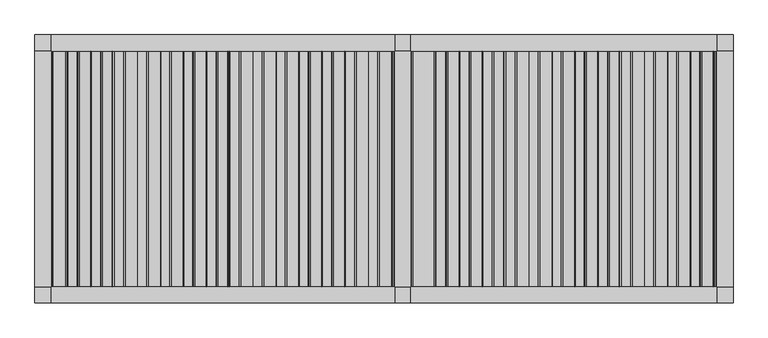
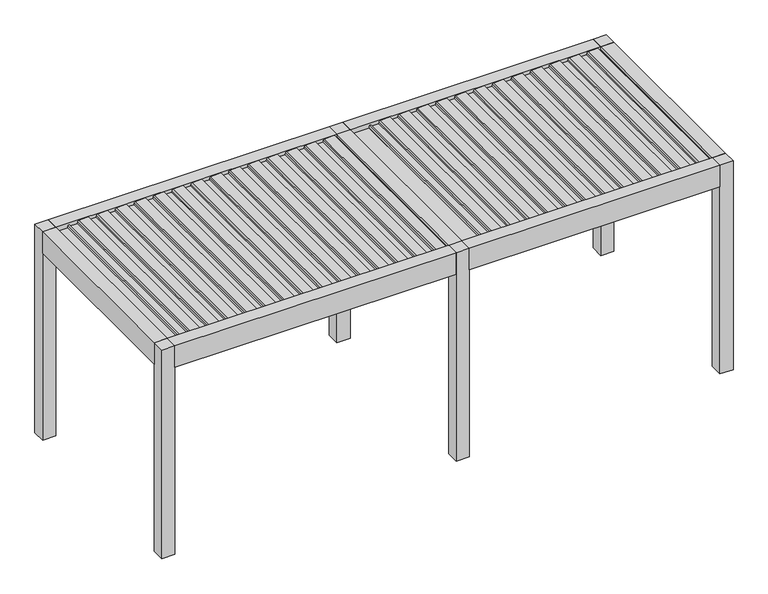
"""IFC4 building model written with IfcOpenShell, lengths in millimetres: proxy geometry, Renson_Camargue_Freestanding_Patio covers : Renson_Camargue_Freestanding_Patio covers."""

from ifc_helpers import new_model, si_unit, point, frame, frame_2d, origin, origin_with_axes, place, context, project, spatial, polyline, circle_curve, trimmed, segment, composite_curve, outline, extrude, source, transform, mapped, element, save


def generic_models_5eb306d7(model_context):
    return source(origin(), model_context, "Body", "SweptSolid", [
        extrude(outline(composite_curve([segment(polyline([(2458.35, 4323.7289238), (2486.01198, 4326.1490335), (2487.3970364, 4354.984284), (2506.8911096, 4351.5469529), (2501.6075693, 4241.549838)]), True, "CONTINUOUS"), segment(trimmed(circle_curve(frame_2d((2486.6248435, 4242.26951)), 15.0), [point((2501.6075693, 4241.549838))], [point((2489.2295662, 4227.4973937))], False, "CARTESIAN"), True, "CONTINUOUS"), segment(polyline([(2489.2295662, 4227.4973937), (2470.0, 4224.1067023), (2470.0, 4136.3709263), (2487.0788237, 4133.3594689), (2486.3450182, 4118.0824984), (2458.35, 4115.6332517), (2458.35, 4323.7289238)]), True, "CONTINUOUS")], self_intersect=False)), frame((0.0, -1100.0, 0.0), z_axis=(0.0, 1.0, 0.0), x_axis=(0.0, 0.0, 1.0)), (0.0, 0.0, 1.0), 2200.0),
        extrude(outline(composite_curve([segment(polyline([(2458.35, 4108.7132078), (2486.01198, 4111.1333174), (2487.3970364, 4139.9685679), (2506.8911096, 4136.5312368), (2501.6075693, 4026.534122)]), True, "CONTINUOUS"), segment(trimmed(circle_curve(frame_2d((2486.6248435, 4027.2537939)), 15.0), [point((2501.6075693, 4026.534122))], [point((2489.2295662, 4012.4816776))], False, "CARTESIAN"), True, "CONTINUOUS"), segment(polyline([(2489.2295662, 4012.4816776), (2470.0, 4009.0909863), (2470.0, 3921.3552102), (2487.0788237, 3918.3437528), (2486.3450182, 3903.0667824), (2458.35, 3900.6175356), (2458.35, 4108.7132078)]), True, "CONTINUOUS")], self_intersect=False)), frame((0.0, -1100.0, 0.0), z_axis=(0.0, 1.0, 0.0), x_axis=(0.0, 0.0, 1.0)), (0.0, 0.0, 1.0), 2200.0),
        extrude(outline(composite_curve([segment(polyline([(2458.35, 3893.6974917), (2486.01198, 3896.1176014), (2487.3970364, 3924.9528519), (2506.8911096, 3921.5155208), (2501.6075693, 3811.5184059)]), True, "CONTINUOUS"), segment(trimmed(circle_curve(frame_2d((2486.6248435, 3812.2380779)), 15.0), [point((2501.6075693, 3811.5184059))], [point((2489.2295662, 3797.4659616))], False, "CARTESIAN"), True, "CONTINUOUS"), segment(polyline([(2489.2295662, 3797.4659616), (2470.0, 3794.0752702), (2470.0, 3706.3394942), (2487.0788237, 3703.3280368), (2486.3450182, 3688.0510663), (2458.35, 3685.6018196), (2458.35, 3893.6974917)]), True, "CONTINUOUS")], self_intersect=False)), frame((0.0, -1100.0, 0.0), z_axis=(0.0, 1.0, 0.0), x_axis=(0.0, 0.0, 1.0)), (0.0, 0.0, 1.0), 2200.0),
        extrude(outline(composite_curve([segment(polyline([(2458.35, 3678.6817757), (2486.01198, 3681.1018854), (2487.3970364, 3709.9371358), (2506.8911096, 3706.4998047), (2501.6075693, 3596.5026899)]), True, "CONTINUOUS"), segment(trimmed(circle_curve(frame_2d((2486.6248435, 3597.2223618)), 15.0), [point((2501.6075693, 3596.5026899))], [point((2489.2295662, 3582.4502455))], False, "CARTESIAN"), True, "CONTINUOUS"), segment(polyline([(2489.2295662, 3582.4502455), (2470.0, 3579.0595542), (2470.0, 3491.3237782), (2487.0788237, 3488.3123207), (2486.3450182, 3473.0353503), (2458.35, 3470.5861035), (2458.35, 3678.6817757)]), True, "CONTINUOUS")], self_intersect=False)), frame((0.0, -1100.0, 0.0), z_axis=(0.0, 1.0, 0.0), x_axis=(0.0, 0.0, 1.0)), (0.0, 0.0, 1.0), 2200.0),
        extrude(outline(composite_curve([segment(polyline([(2458.35, 3463.6660597), (2486.01198, 3466.0861693), (2487.3970364, 3494.9214198), (2506.8911096, 3491.4840887), (2501.6075693, 3381.4869738)]), True, "CONTINUOUS"), segment(trimmed(circle_curve(frame_2d((2486.6248435, 3382.2066458)), 15.0), [point((2501.6075693, 3381.4869738))], [point((2489.2295662, 3367.4345295))], False, "CARTESIAN"), True, "CONTINUOUS"), segment(polyline([(2489.2295662, 3367.4345295), (2470.0, 3364.0438381), (2470.0, 3276.3080621), (2487.0788237, 3273.2966047), (2486.3450182, 3258.0196342), (2458.35, 3255.5703875), (2458.35, 3463.6660597)]), True, "CONTINUOUS")], self_intersect=False)), frame((0.0, -1100.0, 0.0), z_axis=(0.0, 1.0, 0.0), x_axis=(0.0, 0.0, 1.0)), (0.0, 0.0, 1.0), 2200.0),
        extrude(outline(composite_curve([segment(polyline([(2458.35, 3248.6503436), (2486.01198, 3251.0704533), (2487.3970364, 3279.9057037), (2506.8911096, 3276.4683726), (2501.6075693, 3166.4712578)]), True, "CONTINUOUS"), segment(trimmed(circle_curve(frame_2d((2486.6248435, 3167.1909297)), 15.0), [point((2501.6075693, 3166.4712578))], [point((2489.2295662, 3152.4188134))], False, "CARTESIAN"), True, "CONTINUOUS"), segment(polyline([(2489.2295662, 3152.4188134), (2470.0, 3149.0281221), (2470.0, 3061.2923461), (2487.0788237, 3058.2808886), (2486.3450182, 3043.0039182), (2458.35, 3040.5546714), (2458.35, 3248.6503436)]), True, "CONTINUOUS")], self_intersect=False)), frame((0.0, -1100.0, 0.0), z_axis=(0.0, 1.0, 0.0), x_axis=(0.0, 0.0, 1.0)), (0.0, 0.0, 1.0), 2200.0),
        extrude(outline(composite_curve([segment(polyline([(2458.35, 3033.6346276), (2486.01198, 3036.0547372), (2487.3970364, 3064.8899877), (2506.8911096, 3061.4526566), (2501.6075693, 2951.4555418)]), True, "CONTINUOUS"), segment(trimmed(circle_curve(frame_2d((2486.6248435, 2952.1752137)), 15.0), [point((2501.6075693, 2951.4555418))], [point((2489.2295662, 2937.4030974))], False, "CARTESIAN"), True, "CONTINUOUS"), segment(polyline([(2489.2295662, 2937.4030974), (2470.0, 2934.012406), (2470.0, 2846.27663), (2487.0788237, 2843.2651726), (2486.3450182, 2827.9882021), (2458.35, 2825.5389554), (2458.35, 3033.6346276)]), True, "CONTINUOUS")], self_intersect=False)), frame((0.0, -1100.0, 0.0), z_axis=(0.0, 1.0, 0.0), x_axis=(0.0, 0.0, 1.0)), (0.0, 0.0, 1.0), 2200.0),
        extrude(outline(composite_curve([segment(polyline([(2458.35, 2818.6189115), (2486.01198, 2821.0390212), (2487.3970364, 2849.8742716), (2506.8911096, 2846.4369406), (2501.6075693, 2736.4398257)]), True, "CONTINUOUS"), segment(trimmed(circle_curve(frame_2d((2486.6248435, 2737.1594976)), 15.0), [point((2501.6075693, 2736.4398257))], [point((2489.2295662, 2722.3873813))], False, "CARTESIAN"), True, "CONTINUOUS"), segment(polyline([(2489.2295662, 2722.3873813), (2470.0, 2718.99669), (2470.0, 2631.260914), (2487.0788237, 2628.2494566), (2486.3450182, 2612.9724861), (2458.35, 2610.5232394), (2458.35, 2818.6189115)]), True, "CONTINUOUS")], self_intersect=False)), frame((0.0, -1100.0, 0.0), z_axis=(0.0, 1.0, 0.0), x_axis=(0.0, 0.0, 1.0)), (0.0, 0.0, 1.0), 2200.0),
        extrude(outline(composite_curve([segment(polyline([(2458.35, 2603.6031955), (2486.01198, 2606.0233051), (2487.3970364, 2634.8585556), (2506.8911096, 2631.4212245), (2501.6075693, 2521.4241097)]), True, "CONTINUOUS"), segment(trimmed(circle_curve(frame_2d((2486.6248435, 2522.1437816)), 15.0), [point((2501.6075693, 2521.4241097))], [point((2489.2295662, 2507.3716653))], False, "CARTESIAN"), True, "CONTINUOUS"), segment(polyline([(2489.2295662, 2507.3716653), (2470.0, 2503.980974), (2470.0, 2416.2451979), (2487.0788237, 2413.2337405), (2486.3450182, 2397.95677), (2458.35, 2395.5075233), (2458.35, 2603.6031955)]), True, "CONTINUOUS")], self_intersect=False)), frame((0.0, -1100.0, 0.0), z_axis=(0.0, 1.0, 0.0), x_axis=(0.0, 0.0, 1.0)), (0.0, 0.0, 1.0), 2200.0),
        extrude(outline(composite_curve([segment(polyline([(2458.35, 2388.5874794), (2486.01198, 2391.0075891), (2487.3970364, 2419.8428395), (2506.8911096, 2416.4055085), (2501.6075693, 2306.4083936)]), True, "CONTINUOUS"), segment(trimmed(circle_curve(frame_2d((2486.6248435, 2307.1280655)), 15.0), [point((2501.6075693, 2306.4083936))], [point((2489.2295662, 2292.3559492))], False, "CARTESIAN"), True, "CONTINUOUS"), segment(polyline([(2489.2295662, 2292.3559492), (2470.0, 2288.9652579), (2470.0, 2201.2294819), (2487.0788237, 2198.2180245), (2486.3450182, 2182.941054), (2458.35, 2180.4918073), (2458.35, 2388.5874794)]), True, "CONTINUOUS")], self_intersect=False)), frame((0.0, -1100.0, 0.0), z_axis=(0.0, 1.0, 0.0), x_axis=(0.0, 0.0, 1.0)), (0.0, 0.0, 1.0), 2200.0),
        extrude(outline(composite_curve([segment(polyline([(2458.35, 4538.7446399), (2486.01198, 4541.1647495), (2487.3970364, 4570.0), (2506.8911096, 4566.5626689), (2501.6075693, 4456.5655541)]), True, "CONTINUOUS"), segment(trimmed(circle_curve(frame_2d((2486.6248435, 4457.285226)), 15.0), [point((2501.6075693, 4456.5655541))], [point((2489.2295662, 4442.5131097))], False, "CARTESIAN"), True, "CONTINUOUS"), segment(polyline([(2489.2295662, 4442.5131097), (2470.0, 4439.1224184), (2470.0, 4351.3866423), (2487.0788237, 4348.3751849), (2486.3450182, 4333.0982144), (2458.35, 4330.6489677), (2458.35, 4538.7446399)]), True, "CONTINUOUS")], self_intersect=False)), frame((0.0, -1100.0, 0.0), z_axis=(0.0, 1.0, 0.0), x_axis=(0.0, 0.0, 1.0)), (0.0, 0.0, 1.0), 2200.0),
        extrude(outline(composite_curve([segment(polyline([(2458.35, 2173.5717634), (2486.01198, 2175.991873), (2487.3970364, 2204.8271235), (2506.8911096, 2201.3897924), (2501.6075693, 2091.3926776)]), True, "CONTINUOUS"), segment(trimmed(circle_curve(frame_2d((2486.6248435, 2092.1123495)), 15.0), [point((2501.6075693, 2091.3926776))], [point((2489.2295662, 2077.3402332))], False, "CARTESIAN"), True, "CONTINUOUS"), segment(polyline([(2489.2295662, 2077.3402332), (2470.0, 2073.9495419), (2470.0, 1986.2137658), (2487.0788237, 1983.2023084), (2486.3450182, 1967.9253379), (2458.35, 1965.4760912), (2458.35, 2173.5717634)]), True, "CONTINUOUS")], self_intersect=False)), frame((0.0, -1100.0, 0.0), z_axis=(0.0, 1.0, 0.0), x_axis=(0.0, 0.0, 1.0)), (0.0, 0.0, 1.0), 2200.0),
        extrude(outline(composite_curve([segment(polyline([(2458.35, 1323.7313417), (2486.01198, 1326.1514513), (2487.3970364, 1354.9867018), (2506.8911096, 1351.5493707), (2501.6075693, 1241.5522559)]), True, "CONTINUOUS"), segment(trimmed(circle_curve(frame_2d((2486.6248435, 1242.2719278)), 15.0), [point((2501.6075693, 1241.5522559))], [point((2489.2295662, 1227.4998115))], False, "CARTESIAN"), True, "CONTINUOUS"), segment(polyline([(2489.2295662, 1227.4998115), (2470.0, 1224.1091202), (2470.0, 1136.3733441), (2487.0788237, 1133.3618867), (2486.3450182, 1118.0849163), (2458.35, 1115.6356695), (2458.35, 1323.7313417)]), True, "CONTINUOUS")], self_intersect=False)), frame((0.0, -1100.0, 0.0), z_axis=(0.0, 1.0, 0.0), x_axis=(0.0, 0.0, 1.0)), (0.0, 0.0, 1.0), 2200.0),
        extrude(outline(composite_curve([segment(polyline([(2458.35, 1108.7180435), (2486.01198, 1111.1381532), (2487.3970364, 1139.9734036), (2506.8911096, 1136.5360725), (2501.6075693, 1026.5389577)]), True, "CONTINUOUS"), segment(trimmed(circle_curve(frame_2d((2486.6248435, 1027.2586296)), 15.0), [point((2501.6075693, 1026.5389577))], [point((2489.2295662, 1012.4865133))], False, "CARTESIAN"), True, "CONTINUOUS"), segment(polyline([(2489.2295662, 1012.4865133), (2470.0, 1009.095822), (2470.0, 921.360046), (2487.0788237, 918.3485885), (2486.3450182, 903.0716181), (2458.35, 900.6223713), (2458.35, 1108.7180435)]), True, "CONTINUOUS")], self_intersect=False)), frame((0.0, -1100.0, 0.0), z_axis=(0.0, 1.0, 0.0), x_axis=(0.0, 0.0, 1.0)), (0.0, 0.0, 1.0), 2200.0),
        extrude(outline(composite_curve([segment(polyline([(2458.35, 893.7047453), (2486.01198, 896.124855), (2487.3970364, 924.9601054), (2506.8911096, 921.5227743), (2501.6075693, 811.5256595)]), True, "CONTINUOUS"), segment(trimmed(circle_curve(frame_2d((2486.6248435, 812.2453314)), 15.0), [point((2501.6075693, 811.5256595))], [point((2489.2295662, 797.4732151))], False, "CARTESIAN"), True, "CONTINUOUS"), segment(polyline([(2489.2295662, 797.4732151), (2470.0, 794.0825238), (2470.0, 706.3467478), (2487.0788237, 703.3352903), (2486.3450182, 688.0583199), (2458.35, 685.6090731), (2458.35, 893.7047453)]), True, "CONTINUOUS")], self_intersect=False)), frame((0.0, -1100.0, 0.0), z_axis=(0.0, 1.0, 0.0), x_axis=(0.0, 0.0, 1.0)), (0.0, 0.0, 1.0), 2200.0),
        extrude(outline(composite_curve([segment(polyline([(2458.35, 678.6914471), (2486.01198, 681.1115568), (2487.3970364, 709.9468072), (2506.8911096, 706.5094762), (2501.6075693, 596.5123613)]), True, "CONTINUOUS"), segment(trimmed(circle_curve(frame_2d((2486.6248435, 597.2320332)), 15.0), [point((2501.6075693, 596.5123613))], [point((2489.2295662, 582.4599169))], False, "CARTESIAN"), True, "CONTINUOUS"), segment(polyline([(2489.2295662, 582.4599169), (2470.0, 579.0692256), (2470.0, 491.3334496), (2487.0788237, 488.3219922), (2486.3450182, 473.0450217), (2458.35, 470.595775), (2458.35, 678.6914471)]), True, "CONTINUOUS")], self_intersect=False)), frame((0.0, -1100.0, 0.0), z_axis=(0.0, 1.0, 0.0), x_axis=(0.0, 0.0, 1.0)), (0.0, 0.0, 1.0), 2200.0),
        extrude(outline(composite_curve([segment(polyline([(2458.35, 463.6781489), (2486.01198, 466.0982586), (2487.3970364, 494.933509), (2506.8911096, 491.496178), (2501.6075693, 381.4990631)]), True, "CONTINUOUS"), segment(trimmed(circle_curve(frame_2d((2486.6248435, 382.218735)), 15.0), [point((2501.6075693, 381.4990631))], [point((2489.2295662, 367.4466187))], False, "CARTESIAN"), True, "CONTINUOUS"), segment(polyline([(2489.2295662, 367.4466187), (2470.0, 364.0559274), (2470.0, 276.3201514), (2487.0788237, 273.308694), (2486.3450182, 258.0317235), (2458.35, 255.5824768), (2458.35, 463.6781489)]), True, "CONTINUOUS")], self_intersect=False)), frame((0.0, -1100.0, 0.0), z_axis=(0.0, 1.0, 0.0), x_axis=(0.0, 0.0, 1.0)), (0.0, 0.0, 1.0), 2200.0),
        extrude(outline(composite_curve([segment(polyline([(2458.35, 248.6648507), (2486.01198, 251.0849604), (2487.3970364, 279.9202108), (2506.8911096, 276.4828798), (2501.6075693, 166.4857649)]), True, "CONTINUOUS"), segment(trimmed(circle_curve(frame_2d((2486.6248435, 167.2054368)), 15.0), [point((2501.6075693, 166.4857649))], [point((2489.2295662, 152.4333206))], False, "CARTESIAN"), True, "CONTINUOUS"), segment(polyline([(2489.2295662, 152.4333206), (2470.0, 149.0426292), (2470.0, 61.3068532), (2487.0788237, 58.2953958), (2486.3450182, 43.0184253), (2458.35, 40.5691786), (2458.35, 248.6648507)]), True, "CONTINUOUS")], self_intersect=False)), frame((0.0, -1100.0, 0.0), z_axis=(0.0, 1.0, 0.0), x_axis=(0.0, 0.0, 1.0)), (0.0, 0.0, 1.0), 2200.0),
        extrude(outline(composite_curve([segment(polyline([(2458.35, 33.6515525), (2486.01198, 36.0716622), (2487.3970364, 64.9069127), (2506.8911096, 61.4695816), (2501.6075693, -48.5275333)]), True, "CONTINUOUS"), segment(trimmed(circle_curve(frame_2d((2486.6248435, -47.8078613)), 15.0), [point((2501.6075693, -48.5275333))], [point((2489.2295662, -62.5799776))], False, "CARTESIAN"), True, "CONTINUOUS"), segment(polyline([(2489.2295662, -62.5799776), (2470.0, -65.970669), (2470.0, -153.706445), (2487.0788237, -156.7179024), (2486.3450182, -171.9948729), (2458.35, -174.4441196), (2458.35, 33.6515525)]), True, "CONTINUOUS")], self_intersect=False)), frame((0.0, -1100.0, 0.0), z_axis=(0.0, 1.0, 0.0), x_axis=(0.0, 0.0, 1.0)), (0.0, 0.0, 1.0), 2200.0),
        extrude(outline(composite_curve([segment(polyline([(2458.35, -181.3617457), (2486.01198, -178.941636), (2487.3970364, -150.1063855), (2506.8911096, -153.5437166), (2501.6075693, -263.5408315)]), True, "CONTINUOUS"), segment(trimmed(circle_curve(frame_2d((2486.6248435, -262.8211595)), 15.0), [point((2501.6075693, -263.5408315))], [point((2489.2295662, -277.5932758))], False, "CARTESIAN"), True, "CONTINUOUS"), segment(polyline([(2489.2295662, -277.5932758), (2470.0, -280.9839672), (2470.0, -368.7197432), (2487.0788237, -371.7312006), (2486.3450182, -387.0081711), (2458.35, -389.4574178), (2458.35, -181.3617457)]), True, "CONTINUOUS")], self_intersect=False)), frame((0.0, -1100.0, 0.0), z_axis=(0.0, 1.0, 0.0), x_axis=(0.0, 0.0, 1.0)), (0.0, 0.0, 1.0), 2200.0),
        extrude(outline(composite_curve([segment(polyline([(2458.35, -396.3750439), (2486.01198, -393.9549342), (2487.3970364, -365.1196837), (2506.8911096, -368.5570148), (2501.6075693, -478.5541297)]), True, "CONTINUOUS"), segment(trimmed(circle_curve(frame_2d((2486.6248435, -477.8344577)), 15.0), [point((2501.6075693, -478.5541297))], [point((2489.2295662, -492.606574))], False, "CARTESIAN"), True, "CONTINUOUS"), segment(polyline([(2489.2295662, -492.606574), (2470.0, -495.9972654), (2470.0, -583.7330414), (2487.0788237, -586.7444988), (2486.3450182, -602.0214693), (2458.35, -604.470716), (2458.35, -396.3750439)]), True, "CONTINUOUS")], self_intersect=False)), frame((0.0, -1100.0, 0.0), z_axis=(0.0, 1.0, 0.0), x_axis=(0.0, 0.0, 1.0)), (0.0, 0.0, 1.0), 2200.0),
        extrude(outline(composite_curve([segment(polyline([(2458.35, -611.388342), (2486.01198, -608.9682324), (2487.3970364, -580.1329819), (2506.8911096, -583.570313), (2501.6075693, -693.5674279)]), True, "CONTINUOUS"), segment(trimmed(circle_curve(frame_2d((2486.6248435, -692.8477559)), 15.0), [point((2501.6075693, -693.5674279))], [point((2489.2295662, -707.6198722))], False, "CARTESIAN"), True, "CONTINUOUS"), segment(polyline([(2489.2295662, -707.6198722), (2470.0, -711.0105636), (2470.0, -798.7463396), (2487.0788237, -801.757797), (2486.3450182, -817.0347675), (2458.35, -819.4840142), (2458.35, -611.388342)]), True, "CONTINUOUS")], self_intersect=False)), frame((0.0, -1100.0, 0.0), z_axis=(0.0, 1.0, 0.0), x_axis=(0.0, 0.0, 1.0)), (0.0, 0.0, 1.0), 2200.0),
        extrude(outline(composite_curve([segment(polyline([(2458.35, -826.4016402), (2486.01198, -823.9815306), (2487.3970364, -795.1462801), (2506.8911096, -798.5836112), (2501.6075693, -908.580726)]), True, "CONTINUOUS"), segment(trimmed(circle_curve(frame_2d((2486.6248435, -907.8610541)), 15.0), [point((2501.6075693, -908.580726))], [point((2489.2295662, -922.6331704))], False, "CARTESIAN"), True, "CONTINUOUS"), segment(polyline([(2489.2295662, -922.6331704), (2470.0, -926.0238618), (2470.0, -1013.7596378), (2487.0788237, -1016.7710952), (2486.3450182, -1032.0480657), (2458.35, -1034.4973124), (2458.35, -826.4016402)]), True, "CONTINUOUS")], self_intersect=False)), frame((0.0, -1100.0, 0.0), z_axis=(0.0, 1.0, 0.0), x_axis=(0.0, 0.0, 1.0)), (0.0, 0.0, 1.0), 2200.0),
        extrude(outline(composite_curve([segment(polyline([(2458.35, -1041.4149384), (2486.01198, -1038.9948288), (2487.3970364, -1010.1595783), (2506.8911096, -1013.5969094), (2501.6075693, -1123.5940242)]), True, "CONTINUOUS"), segment(trimmed(circle_curve(frame_2d((2486.6248435, -1122.8743523)), 15.0), [point((2501.6075693, -1123.5940242))], [point((2489.2295662, -1137.6464686))], False, "CARTESIAN"), True, "CONTINUOUS"), segment(polyline([(2489.2295662, -1137.6464686), (2470.0, -1141.0371599), (2470.0, -1228.772936), (2487.0788237, -1231.7843934), (2486.3450182, -1247.0613639), (2458.35, -1249.5106106), (2458.35, -1041.4149384)]), True, "CONTINUOUS")], self_intersect=False)), frame((0.0, -1100.0, 0.0), z_axis=(0.0, 1.0, 0.0), x_axis=(0.0, 0.0, 1.0)), (0.0, 0.0, 1.0), 2200.0),
        extrude(outline(composite_curve([segment(polyline([(2458.35, 1538.7446399), (2486.01198, 1541.1647495), (2487.3970364, 1570.0), (2506.8911096, 1566.5626689), (2501.6075693, 1456.5655541)]), True, "CONTINUOUS"), segment(trimmed(circle_curve(frame_2d((2486.6248435, 1457.285226)), 15.0), [point((2501.6075693, 1456.5655541))], [point((2489.2295662, 1442.5131097))], False, "CARTESIAN"), True, "CONTINUOUS"), segment(polyline([(2489.2295662, 1442.5131097), (2470.0, 1439.1224184), (2470.0, 1351.3866423), (2487.0788237, 1348.3751849), (2486.3450182, 1333.0982144), (2458.35, 1330.6489677), (2458.35, 1538.7446399)]), True, "CONTINUOUS")], self_intersect=False)), frame((0.0, -1100.0, 0.0), z_axis=(0.0, 1.0, 0.0), x_axis=(0.0, 0.0, 1.0)), (0.0, 0.0, 1.0), 2200.0),
        extrude(outline(composite_curve([segment(polyline([(2458.35, -1256.4282366), (2486.01198, -1254.008127), (2487.3970364, -1225.1728765), (2506.8911096, -1228.6102076), (2501.6075693, -1338.6073224)]), True, "CONTINUOUS"), segment(trimmed(circle_curve(frame_2d((2486.6248435, -1337.8876505)), 15.0), [point((2501.6075693, -1338.6073224))], [point((2489.2295662, -1352.6597668))], False, "CARTESIAN"), True, "CONTINUOUS"), segment(polyline([(2489.2295662, -1352.6597668), (2470.0, -1356.0504581), (2470.0, -1443.7862342), (2487.0788237, -1446.7976916), (2486.3450182, -1462.0746621), (2458.35, -1464.5239088), (2458.35, -1256.4282366)]), True, "CONTINUOUS")], self_intersect=False)), frame((0.0, -1100.0, 0.0), z_axis=(0.0, 1.0, 0.0), x_axis=(0.0, 0.0, 1.0)), (0.0, 0.0, 1.0), 2200.0),
        extrude(outline(polyline([(2441.6559373, 1750.0), (2441.6559373, 1960.0), (2455.6555802, 1963.7512887), (2455.6555802, 1770.4059055), (2471.400763, 1755.0), (2479.2449277, 1755.0), (2479.6823598, 1750.0), (2441.6559373, 1750.0)])), frame((0.0, -1100.0, 0.0), z_axis=(0.0, 1.0, 0.0), x_axis=(0.0, 0.0, 1.0)), (0.0, 0.0, 1.0), 2200.0),
        extrude(outline(polyline([(-1100.0, 2510.0), (-1100.0, 2322.0), (-1030.0000001, 2322.0), (-1030.0000001, 2250.0), (-1250.0, 2250.0), (-1250.0, 2510.0), (-1100.0, 2510.0)])), frame((1750.0, 0.0, 0.0), z_axis=(1.0, 0.0, 0.0), x_axis=(0.0, 1.0, 0.0)), (0.0, 0.0, 1.0), 2850.0),
        extrude(outline(polyline([(1250.0, 2250.0), (1030.0000001, 2250.0), (1030.0000001, 2322.0), (1100.0, 2322.0), (1100.0, 2510.0), (1250.0, 2510.0), (1250.0, 2250.0)])), frame((1750.0, 0.0, 0.0), z_axis=(1.0, 0.0, 0.0), x_axis=(0.0, 1.0, 0.0)), (0.0, 0.0, 1.0), 2850.0),
        extrude(outline(polyline([(2510.0, 4750.0), (2510.0, 4600.0), (2479.6823598, 4600.0), (2479.2449277, 4595.0), (2471.400763, 4595.0), (2455.6555802, 4579.2544156), (2455.6555802, 4569.9090324), (2441.6559373, 4573.6603211), (2441.6559373, 4600.0), (2250.0, 4600.0), (2250.0, 4750.0), (2510.0, 4750.0)])), frame((0.0, -1100.0, 0.0), z_axis=(0.0, 1.0, 0.0), x_axis=(0.0, 0.0, 1.0)), (0.0, 0.0, 1.0), 2200.0),
        extrude(outline(polyline([(4750.0, 1100.0), (4600.0, 1100.0), (4600.0, 1250.0), (4750.0, 1250.0), (4750.0, 1100.0)])), origin_with_axes(), (0.0, 0.0, 1.0), 2510.0),
        extrude(outline(polyline([(4750.0, -1100.0), (4750.0, -1250.0), (4600.0, -1250.0), (4600.0, -1100.0), (4750.0, -1100.0)])), origin_with_axes(), (0.0, 0.0, 1.0), 2510.0),
        extrude(outline(polyline([(2441.6559373, -1600.0), (2441.6559373, -1470.0), (2455.6555802, -1466.2487113), (2455.6555802, -1579.5940945), (2471.400763, -1595.0), (2479.2449277, -1595.0), (2479.6823598, -1600.0), (2441.6559373, -1600.0)])), frame((0.0, -1100.0, 0.0), z_axis=(0.0, 1.0, 0.0), x_axis=(0.0, 0.0, 1.0)), (0.0, 0.0, 1.0), 2200.0),
        extrude(outline(polyline([(-1600.0, -1100.0), (-1750.0, -1100.0), (-1750.0, 1100.0), (-1600.0, 1100.0), (-1600.0, -1100.0)])), frame((0.0, 0.0, 2250.0), z_axis=(0.0, 0.0, 1.0), x_axis=(1.0, 0.0, 0.0)), (0.0, 0.0, 1.0), 260.0),
        extrude(outline(polyline([(2510.0, 1750.0), (2510.0, 1600.0), (2479.6904658, 1600.0), (2479.2449277, 1595.0), (2471.400763, 1595.0), (2455.6555802, 1579.2544156), (2455.6555802, 1569.9090324), (2441.6559373, 1573.6603211), (2441.6559373, 1600.0), (2250.0, 1600.0), (2250.0, 1750.0), (2510.0, 1750.0)])), frame((0.0, -1100.0, 0.0), z_axis=(0.0, 1.0, 0.0), x_axis=(0.0, 0.0, 1.0)), (0.0, 0.0, 1.0), 2200.0),
        extrude(outline(polyline([(-1100.0, 2510.0), (-1100.0, 2322.0), (-1030.0000001, 2322.0), (-1030.0000001, 2250.0), (-1250.0, 2250.0), (-1250.0, 2510.0), (-1100.0, 2510.0)])), frame((-1600.0, 0.0, 0.0), z_axis=(1.0, 0.0, 0.0), x_axis=(0.0, 1.0, 0.0)), (0.0, 0.0, 1.0), 3200.0),
        extrude(outline(polyline([(1250.0, 2250.0), (1030.0000001, 2250.0), (1030.0000001, 2322.0), (1100.0, 2322.0), (1100.0, 2510.0), (1250.0, 2510.0), (1250.0, 2250.0)])), frame((-1600.0, 0.0, 0.0), z_axis=(1.0, 0.0, 0.0), x_axis=(0.0, 1.0, 0.0)), (0.0, 0.0, 1.0), 3200.0),
        extrude(outline(polyline([(-1600.0, 1250.0), (-1600.0, 1100.0), (-1750.0, 1100.0), (-1750.0, 1250.0), (-1600.0, 1250.0)])), origin_with_axes(), (0.0, 0.0, 1.0), 2510.0),
        extrude(outline(polyline([(1750.0, 1250.0), (1750.0, 1100.0), (1600.0, 1100.0), (1600.0, 1250.0), (1750.0, 1250.0)])), origin_with_axes(), (0.0, 0.0, 1.0), 2510.0),
        extrude(outline(polyline([(1750.0, -1100.0), (1750.0, -1250.0), (1600.0, -1250.0), (1600.0, -1100.0), (1750.0, -1100.0)])), origin_with_axes(), (0.0, 0.0, 1.0), 2510.0),
        extrude(outline(polyline([(-1600.0, -1100.0), (-1600.0, -1250.0), (-1750.0, -1250.0), (-1750.0, -1100.0), (-1600.0, -1100.0)])), origin_with_axes(), (0.0, 0.0, 1.0), 2510.0),
    ])


if __name__ == "__main__":
    model = new_model("IFC4")
    model_context = context("Model", 3, world=origin())
    ifc_project = project(units=[si_unit("LENGTHUNIT", "METRE", prefix="MILLI")], contexts=[model_context])
    site = spatial("IfcSite", under=ifc_project)
    building = spatial("IfcBuilding", under=site)
    placement = place(None, origin())
    generic_models_shape = generic_models_5eb306d7(model_context)
    element("IfcBuildingElementProxy", 1, Name="Renson_Camargue_Freestanding_Patio covers : Renson_Camargue_Freestanding_Patio covers", ObjectType="Renson_Camargue_Freestanding_Patio covers : Renson_Camargue_Freestanding_Patio covers", at=placement, inside=building, context=model_context, shape_type="MappedRepresentation", body=[
        mapped(generic_models_shape, transform((0.0, 0.0, 0.0), x_axis=(1.0, 0.0, 0.0), y_axis=(0.0, 1.0, 0.0), z_axis=(0.0, 0.0, 1.0))),
    ])
    save(model, "model.ifc")
